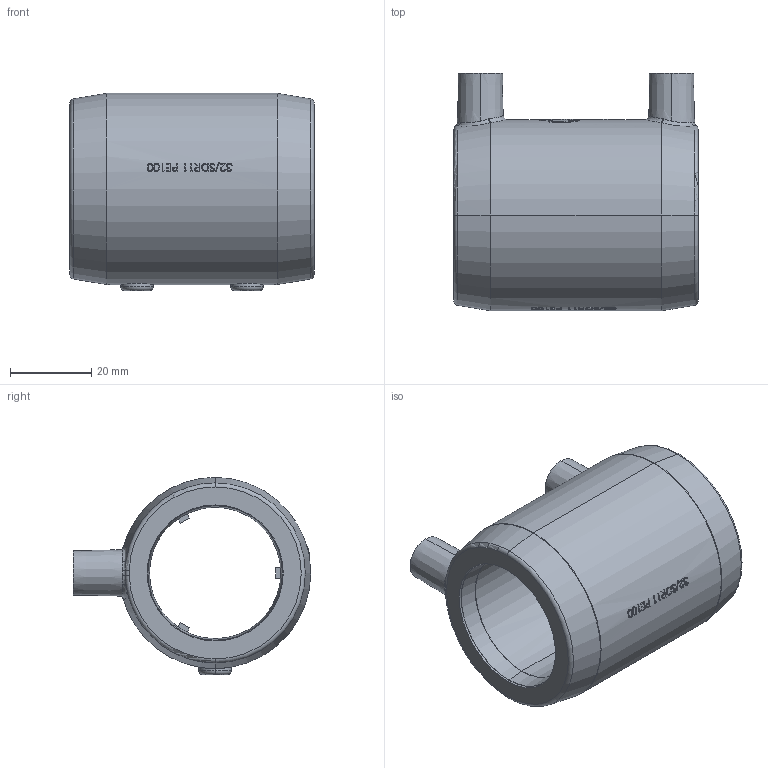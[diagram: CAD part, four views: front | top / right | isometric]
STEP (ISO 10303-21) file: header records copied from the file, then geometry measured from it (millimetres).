
FILE_DESCRIPTION (( 'STEP AP214' ), '1' );
FILE_NAME ('KP_2-32.STEP', '2022-04-28T07:41:54', ( '' ), ( '' ), 'SwSTEP 2.0', 'SolidWorks 2022', '' );
FILE_SCHEMA (( 'AUTOMOTIVE_DESIGN' ));
Length unit declared in the file: millimetre
Products named in the file (1): KP_2-32
Bounding box: 60 x 58.4 x 48.5 mm (x, y, z)
Volume: 54149 mm3; surface area: 17831.6 mm2
Topology: 1 solids, 1 shells, 487 faces, 1231 edges, 802 vertices
Faces by surface type: plane 246, bspline 122, cylinder 65, torus 28, cone 26
Entity records: 20675 total; most frequent: CARTESIAN_POINT 9957, ORIENTED_EDGE 2462, DIRECTION 1615, EDGE_CURVE 1231, VERTEX_POINT 802, AXIS2_PLACEMENT_3D 564, EDGE_LOOP 545, ADVANCED_FACE 487
